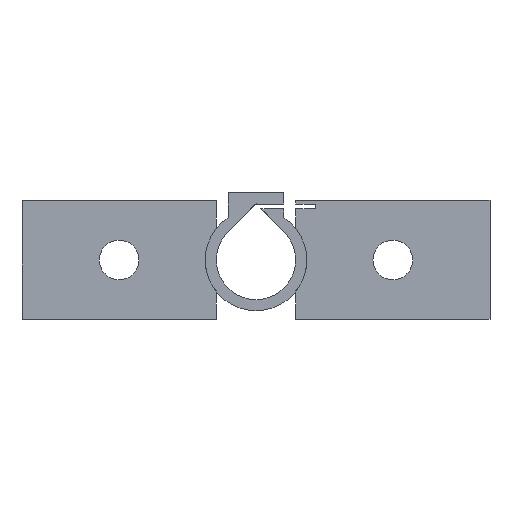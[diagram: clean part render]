
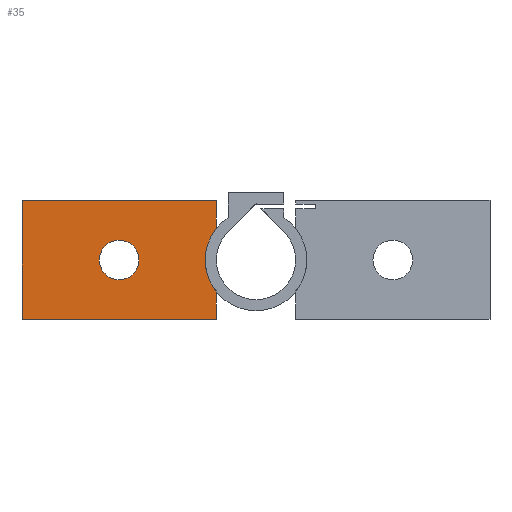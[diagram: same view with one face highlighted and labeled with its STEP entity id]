
A CAD part, left-side view. The second image highlights one B-rep face of the part: STEP entity #35.
In plain terms, the highlighted planar face has unit normal (-1, 0, 0).
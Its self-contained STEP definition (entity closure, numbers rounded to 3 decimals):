
#35 = ADVANCED_FACE('',(#36,#216),#50,.T.);
#36 = FACE_BOUND('',#37,.T.);
#37 = EDGE_LOOP('',(#38,#73,#101,#134,#162,#190));
#38 = ORIENTED_EDGE('',*,*,#39,.F.);
#39 = EDGE_CURVE('',#40,#42,#44,.T.);
#40 = VERTEX_POINT('',#41);
#41 = CARTESIAN_POINT('',(-13.,10.,-15.));
#42 = VERTEX_POINT('',#43);
#43 = CARTESIAN_POINT('',(-13.,59.,-15.));
#44 = SURFACE_CURVE('',#45,(#49,#61),.PCURVE_S1.);
#45 = LINE('',#46,#47);
#46 = CARTESIAN_POINT('',(-13.,34.5,-15.));
#47 = VECTOR('',#48,1.);
#48 = DIRECTION('',(0.,1.,0.));
#49 = PCURVE('',#50,#55);
#50 = PLANE('',#51);
#51 = AXIS2_PLACEMENT_3D('',#52,#53,#54);
#52 = CARTESIAN_POINT('',(-13.,10.,-15.));
#53 = DIRECTION('',(-1.,0.,0.));
#54 = DIRECTION('',(0.,1.,0.));
#55 = DEFINITIONAL_REPRESENTATION('',(#56),#60);
#56 = LINE('',#57,#58);
#57 = CARTESIAN_POINT('',(24.5,0.));
#58 = VECTOR('',#59,1.);
#59 = DIRECTION('',(1.,0.));
#60 = ( GEOMETRIC_REPRESENTATION_CONTEXT(2) 
PARAMETRIC_REPRESENTATION_CONTEXT() REPRESENTATION_CONTEXT('2D SPACE',''
  ) );
#61 = PCURVE('',#62,#67);
#62 = PLANE('',#63);
#63 = AXIS2_PLACEMENT_3D('',#64,#65,#66);
#64 = CARTESIAN_POINT('',(0.,34.5,-15.));
#65 = DIRECTION('',(0.,0.,1.));
#66 = DIRECTION('',(1.,0.,-0.));
#67 = DEFINITIONAL_REPRESENTATION('',(#68),#72);
#68 = LINE('',#69,#70);
#69 = CARTESIAN_POINT('',(-13.,0.));
#70 = VECTOR('',#71,1.);
#71 = DIRECTION('',(0.,1.));
#72 = ( GEOMETRIC_REPRESENTATION_CONTEXT(2) 
PARAMETRIC_REPRESENTATION_CONTEXT() REPRESENTATION_CONTEXT('2D SPACE',''
  ) );
#73 = ORIENTED_EDGE('',*,*,#74,.T.);
#74 = EDGE_CURVE('',#40,#75,#77,.T.);
#75 = VERTEX_POINT('',#76);
#76 = CARTESIAN_POINT('',(-13.,10.,-7.99));
#77 = SURFACE_CURVE('',#78,(#82,#89),.PCURVE_S1.);
#78 = LINE('',#79,#80);
#79 = CARTESIAN_POINT('',(-13.,10.,-15.));
#80 = VECTOR('',#81,1.);
#81 = DIRECTION('',(0.,0.,1.));
#82 = PCURVE('',#50,#83);
#83 = DEFINITIONAL_REPRESENTATION('',(#84),#88);
#84 = LINE('',#85,#86);
#85 = CARTESIAN_POINT('',(0.,0.));
#86 = VECTOR('',#87,1.);
#87 = DIRECTION('',(0.,-1.));
#88 = ( GEOMETRIC_REPRESENTATION_CONTEXT(2) 
PARAMETRIC_REPRESENTATION_CONTEXT() REPRESENTATION_CONTEXT('2D SPACE',''
  ) );
#89 = PCURVE('',#90,#95);
#90 = PLANE('',#91);
#91 = AXIS2_PLACEMENT_3D('',#92,#93,#94);
#92 = CARTESIAN_POINT('',(-13.,10.,-15.));
#93 = DIRECTION('',(0.,1.,0.));
#94 = DIRECTION('',(1.,0.,0.));
#95 = DEFINITIONAL_REPRESENTATION('',(#96),#100);
#96 = LINE('',#97,#98);
#97 = CARTESIAN_POINT('',(0.,0.));
#98 = VECTOR('',#99,1.);
#99 = DIRECTION('',(0.,-1.));
#100 = ( GEOMETRIC_REPRESENTATION_CONTEXT(2) 
PARAMETRIC_REPRESENTATION_CONTEXT() REPRESENTATION_CONTEXT('2D SPACE',''
  ) );
#101 = ORIENTED_EDGE('',*,*,#102,.T.);
#102 = EDGE_CURVE('',#75,#103,#105,.T.);
#103 = VERTEX_POINT('',#104);
#104 = CARTESIAN_POINT('',(-13.,10.,7.99));
#105 = SURFACE_CURVE('',#106,(#111,#122),.PCURVE_S1.);
#106 = CIRCLE('',#107,12.8);
#107 = AXIS2_PLACEMENT_3D('',#108,#109,#110);
#108 = CARTESIAN_POINT('',(-13.,0.,0.));
#109 = DIRECTION('',(1.,0.,0.));
#110 = DIRECTION('',(0.,-0.547,0.837));
#111 = PCURVE('',#50,#112);
#112 = DEFINITIONAL_REPRESENTATION('',(#113),#121);
#113 = ( BOUNDED_CURVE() B_SPLINE_CURVE(2,(#114,#115,#116,#117,#118,#119
,#120),.UNSPECIFIED.,.T.,.F.) B_SPLINE_CURVE_WITH_KNOTS((1,2,2,2,2,1),(
    -2.094,0.,2.094,4.189,6.283,
8.378),.UNSPECIFIED.) CURVE() GEOMETRIC_REPRESENTATION_ITEM() 
RATIONAL_B_SPLINE_CURVE((1.,0.5,1.,0.5,1.,0.5,1.)) REPRESENTATION_ITEM(
  '') );
#114 = CARTESIAN_POINT('',(-17.,-25.716));
#115 = CARTESIAN_POINT('',(-35.561,-13.592));
#116 = CARTESIAN_POINT('',(-15.781,-3.58));
#117 = CARTESIAN_POINT('',(4.,6.433));
#118 = CARTESIAN_POINT('',(2.781,-15.704));
#119 = CARTESIAN_POINT('',(1.561,-37.841));
#120 = CARTESIAN_POINT('',(-17.,-25.716));
#121 = ( GEOMETRIC_REPRESENTATION_CONTEXT(2) 
PARAMETRIC_REPRESENTATION_CONTEXT() REPRESENTATION_CONTEXT('2D SPACE',''
  ) );
#122 = PCURVE('',#123,#128);
#123 = CYLINDRICAL_SURFACE('',#124,12.8);
#124 = AXIS2_PLACEMENT_3D('',#125,#126,#127);
#125 = CARTESIAN_POINT('',(0.,0.,0.));
#126 = DIRECTION('',(1.,0.,0.));
#127 = DIRECTION('',(0.,-0.547,0.837));
#128 = DEFINITIONAL_REPRESENTATION('',(#129),#133);
#129 = LINE('',#130,#131);
#130 = CARTESIAN_POINT('',(0.,-13.));
#131 = VECTOR('',#132,1.);
#132 = DIRECTION('',(1.,0.));
#133 = ( GEOMETRIC_REPRESENTATION_CONTEXT(2) 
PARAMETRIC_REPRESENTATION_CONTEXT() REPRESENTATION_CONTEXT('2D SPACE',''
  ) );
#134 = ORIENTED_EDGE('',*,*,#135,.T.);
#135 = EDGE_CURVE('',#103,#136,#138,.T.);
#136 = VERTEX_POINT('',#137);
#137 = CARTESIAN_POINT('',(-13.,10.,15.));
#138 = SURFACE_CURVE('',#139,(#143,#150),.PCURVE_S1.);
#139 = LINE('',#140,#141);
#140 = CARTESIAN_POINT('',(-13.,10.,-15.));
#141 = VECTOR('',#142,1.);
#142 = DIRECTION('',(0.,0.,1.));
#143 = PCURVE('',#50,#144);
#144 = DEFINITIONAL_REPRESENTATION('',(#145),#149);
#145 = LINE('',#146,#147);
#146 = CARTESIAN_POINT('',(0.,0.));
#147 = VECTOR('',#148,1.);
#148 = DIRECTION('',(0.,-1.));
#149 = ( GEOMETRIC_REPRESENTATION_CONTEXT(2) 
PARAMETRIC_REPRESENTATION_CONTEXT() REPRESENTATION_CONTEXT('2D SPACE',''
  ) );
#150 = PCURVE('',#151,#156);
#151 = PLANE('',#152);
#152 = AXIS2_PLACEMENT_3D('',#153,#154,#155);
#153 = CARTESIAN_POINT('',(-13.,10.,-15.));
#154 = DIRECTION('',(0.,1.,0.));
#155 = DIRECTION('',(1.,0.,0.));
#156 = DEFINITIONAL_REPRESENTATION('',(#157),#161);
#157 = LINE('',#158,#159);
#158 = CARTESIAN_POINT('',(0.,0.));
#159 = VECTOR('',#160,1.);
#160 = DIRECTION('',(0.,-1.));
#161 = ( GEOMETRIC_REPRESENTATION_CONTEXT(2) 
PARAMETRIC_REPRESENTATION_CONTEXT() REPRESENTATION_CONTEXT('2D SPACE',''
  ) );
#162 = ORIENTED_EDGE('',*,*,#163,.T.);
#163 = EDGE_CURVE('',#136,#164,#166,.T.);
#164 = VERTEX_POINT('',#165);
#165 = CARTESIAN_POINT('',(-13.,59.,15.));
#166 = SURFACE_CURVE('',#167,(#171,#178),.PCURVE_S1.);
#167 = LINE('',#168,#169);
#168 = CARTESIAN_POINT('',(-13.,34.5,15.));
#169 = VECTOR('',#170,1.);
#170 = DIRECTION('',(0.,1.,0.));
#171 = PCURVE('',#50,#172);
#172 = DEFINITIONAL_REPRESENTATION('',(#173),#177);
#173 = LINE('',#174,#175);
#174 = CARTESIAN_POINT('',(24.5,-30.));
#175 = VECTOR('',#176,1.);
#176 = DIRECTION('',(1.,0.));
#177 = ( GEOMETRIC_REPRESENTATION_CONTEXT(2) 
PARAMETRIC_REPRESENTATION_CONTEXT() REPRESENTATION_CONTEXT('2D SPACE',''
  ) );
#178 = PCURVE('',#179,#184);
#179 = PLANE('',#180);
#180 = AXIS2_PLACEMENT_3D('',#181,#182,#183);
#181 = CARTESIAN_POINT('',(0.,34.5,15.));
#182 = DIRECTION('',(0.,0.,1.));
#183 = DIRECTION('',(1.,0.,-0.));
#184 = DEFINITIONAL_REPRESENTATION('',(#185),#189);
#185 = LINE('',#186,#187);
#186 = CARTESIAN_POINT('',(-13.,0.));
#187 = VECTOR('',#188,1.);
#188 = DIRECTION('',(0.,1.));
#189 = ( GEOMETRIC_REPRESENTATION_CONTEXT(2) 
PARAMETRIC_REPRESENTATION_CONTEXT() REPRESENTATION_CONTEXT('2D SPACE',''
  ) );
#190 = ORIENTED_EDGE('',*,*,#191,.F.);
#191 = EDGE_CURVE('',#42,#164,#192,.T.);
#192 = SURFACE_CURVE('',#193,(#197,#204),.PCURVE_S1.);
#193 = LINE('',#194,#195);
#194 = CARTESIAN_POINT('',(-13.,59.,-15.));
#195 = VECTOR('',#196,1.);
#196 = DIRECTION('',(0.,0.,1.));
#197 = PCURVE('',#50,#198);
#198 = DEFINITIONAL_REPRESENTATION('',(#199),#203);
#199 = LINE('',#200,#201);
#200 = CARTESIAN_POINT('',(49.,0.));
#201 = VECTOR('',#202,1.);
#202 = DIRECTION('',(0.,-1.));
#203 = ( GEOMETRIC_REPRESENTATION_CONTEXT(2) 
PARAMETRIC_REPRESENTATION_CONTEXT() REPRESENTATION_CONTEXT('2D SPACE',''
  ) );
#204 = PCURVE('',#205,#210);
#205 = PLANE('',#206);
#206 = AXIS2_PLACEMENT_3D('',#207,#208,#209);
#207 = CARTESIAN_POINT('',(-13.,59.,-15.));
#208 = DIRECTION('',(0.,1.,0.));
#209 = DIRECTION('',(1.,0.,0.));
#210 = DEFINITIONAL_REPRESENTATION('',(#211),#215);
#211 = LINE('',#212,#213);
#212 = CARTESIAN_POINT('',(0.,0.));
#213 = VECTOR('',#214,1.);
#214 = DIRECTION('',(0.,-1.));
#215 = ( GEOMETRIC_REPRESENTATION_CONTEXT(2) 
PARAMETRIC_REPRESENTATION_CONTEXT() REPRESENTATION_CONTEXT('2D SPACE',''
  ) );
#216 = FACE_BOUND('',#217,.T.);
#217 = EDGE_LOOP('',(#218));
#218 = ORIENTED_EDGE('',*,*,#219,.T.);
#219 = EDGE_CURVE('',#220,#220,#222,.T.);
#220 = VERTEX_POINT('',#221);
#221 = CARTESIAN_POINT('',(-13.,39.5,0.));
#222 = SURFACE_CURVE('',#223,(#228,#239),.PCURVE_S1.);
#223 = CIRCLE('',#224,5.);
#224 = AXIS2_PLACEMENT_3D('',#225,#226,#227);
#225 = CARTESIAN_POINT('',(-13.,34.5,0.));
#226 = DIRECTION('',(1.,0.,0.));
#227 = DIRECTION('',(-0.,1.,0.));
#228 = PCURVE('',#50,#229);
#229 = DEFINITIONAL_REPRESENTATION('',(#230),#238);
#230 = ( BOUNDED_CURVE() B_SPLINE_CURVE(2,(#231,#232,#233,#234,#235,#236
,#237),.UNSPECIFIED.,.T.,.F.) B_SPLINE_CURVE_WITH_KNOTS((1,2,2,2,2,1),(
    -2.094,0.,2.094,4.189,6.283,
8.378),.UNSPECIFIED.) CURVE() GEOMETRIC_REPRESENTATION_ITEM() 
RATIONAL_B_SPLINE_CURVE((1.,0.5,1.,0.5,1.,0.5,1.)) REPRESENTATION_ITEM(
  '') );
#231 = CARTESIAN_POINT('',(29.5,-15.));
#232 = CARTESIAN_POINT('',(29.5,-23.66));
#233 = CARTESIAN_POINT('',(22.,-19.33));
#234 = CARTESIAN_POINT('',(14.5,-15.));
#235 = CARTESIAN_POINT('',(22.,-10.67));
#236 = CARTESIAN_POINT('',(29.5,-6.34));
#237 = CARTESIAN_POINT('',(29.5,-15.));
#238 = ( GEOMETRIC_REPRESENTATION_CONTEXT(2) 
PARAMETRIC_REPRESENTATION_CONTEXT() REPRESENTATION_CONTEXT('2D SPACE',''
  ) );
#239 = PCURVE('',#240,#245);
#240 = CYLINDRICAL_SURFACE('',#241,5.);
#241 = AXIS2_PLACEMENT_3D('',#242,#243,#244);
#242 = CARTESIAN_POINT('',(0.,34.5,0.));
#243 = DIRECTION('',(1.,0.,0.));
#244 = DIRECTION('',(-0.,1.,0.));
#245 = DEFINITIONAL_REPRESENTATION('',(#246),#250);
#246 = LINE('',#247,#248);
#247 = CARTESIAN_POINT('',(0.,-13.));
#248 = VECTOR('',#249,1.);
#249 = DIRECTION('',(1.,0.));
#250 = ( GEOMETRIC_REPRESENTATION_CONTEXT(2) 
PARAMETRIC_REPRESENTATION_CONTEXT() REPRESENTATION_CONTEXT('2D SPACE',''
  ) );
